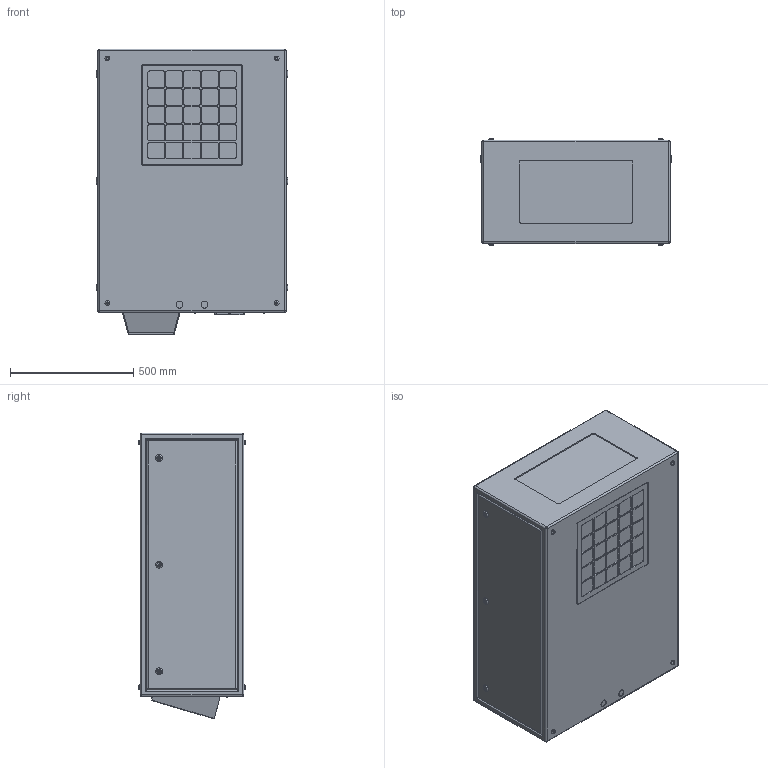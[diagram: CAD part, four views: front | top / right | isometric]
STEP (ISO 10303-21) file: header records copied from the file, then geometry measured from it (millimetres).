
FILE_DESCRIPTION (( 'STEP AP214' ), '1' );
FILE_NAME ('Blizzard 52.150.Lx.xx R06.STEP', '2020-04-29T00:25:30', ( '' ), ( '' ), 'SwSTEP 2.0', 'SolidWorks 2018', '' );
FILE_SCHEMA (( 'AUTOMOTIVE_DESIGN' ));
Length unit declared in the file: inch
Products named in the file (1): Blizzard 52.150.Lx.xx R06
Bounding box: 774.7 x 435.36 x 1157.99 mm (x, y, z)
Volume: 342167266.9 mm3; surface area: 3484188.2 mm2
Topology: 1 solids, 5 shells, 635 faces, 1527 edges, 984 vertices
Faces by surface type: plane 340, cylinder 245, torus 40, sphere 10
Entity records: 22299 total; most frequent: DIRECTION 3305, CARTESIAN_POINT 3199, ORIENTED_EDGE 3038, EDGE_CURVE 1519, AXIS2_PLACEMENT_3D 1170, VERTEX_POINT 984, VECTOR 965, LINE 965
